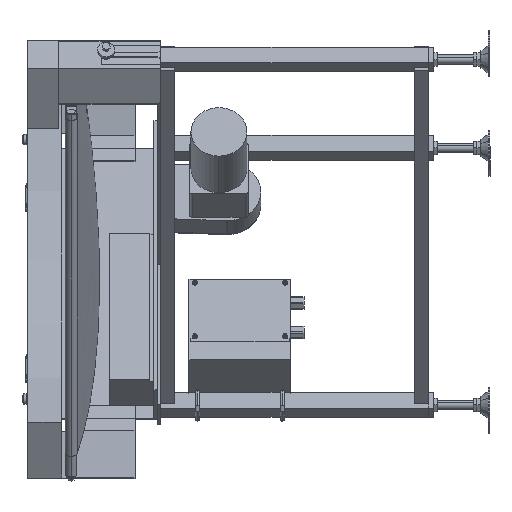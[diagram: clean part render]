
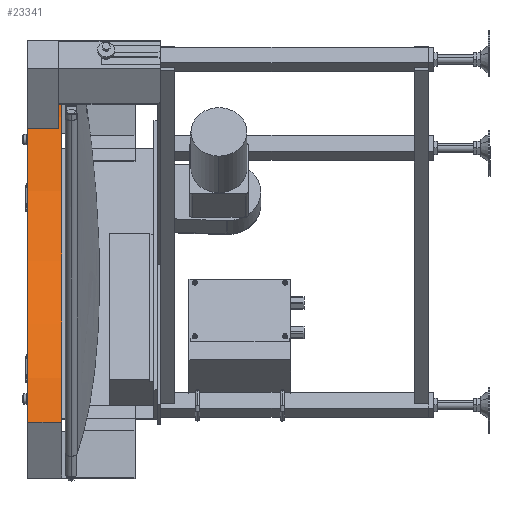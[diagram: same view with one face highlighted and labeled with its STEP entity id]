
A CAD part, left-side view. The second image highlights one B-rep face of the part: STEP entity #23341.
In plain terms, the highlighted cylindrical face has radius 780 mm (diameter 1560 mm), a partial arc.
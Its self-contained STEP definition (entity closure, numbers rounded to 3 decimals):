
#601 = VERTEX_POINT ( 'NONE', #20911 ) ;
#3291 = EDGE_CURVE ( 'NONE', #31294, #7840, #14160, .T. ) ;
#7840 = VERTEX_POINT ( 'NONE', #32800 ) ;
#7894 = AXIS2_PLACEMENT_3D ( 'NONE', #8319, #8604, #39679 ) ;
#8319 = CARTESIAN_POINT ( 'NONE',  ( 0., 8., 0. ) ) ;
#8563 = ORIENTED_EDGE ( 'NONE', *, *, #23838, .F. ) ;
#8604 = DIRECTION ( 'NONE',  ( 0., 1., 0. ) ) ;
#9408 = DIRECTION ( 'NONE',  ( 1., 0., 0. ) ) ;
#10437 = CIRCLE ( 'NONE', #7894, 780. ) ;
#11128 = DIRECTION ( 'NONE',  ( 0., -1., 0. ) ) ;
#11170 = AXIS2_PLACEMENT_3D ( 'NONE', #20501, #11128, #35962 ) ;
#12681 = CARTESIAN_POINT ( 'NONE',  ( 0., 0., 0. ) ) ;
#14160 = CIRCLE ( 'NONE', #11170, 780. ) ;
#14256 = CARTESIAN_POINT ( 'NONE',  ( 390., 0., -675.5 ) ) ;
#17093 = DIRECTION ( 'NONE',  ( 0., 1., 0. ) ) ;
#18195 = ORIENTED_EDGE ( 'NONE', *, *, #27385, .F. ) ;
#19399 = CARTESIAN_POINT ( 'NONE',  ( 390., 8., -675.5 ) ) ;
#20501 = CARTESIAN_POINT ( 'NONE',  ( 0., 68., 0. ) ) ;
#20911 = CARTESIAN_POINT ( 'NONE',  ( 780., 8., 0. ) ) ;
#20995 = LINE ( 'NONE', #21301, #21460 ) ;
#21301 = CARTESIAN_POINT ( 'NONE',  ( 780., 0., 0. ) ) ;
#21460 = VECTOR ( 'NONE', #30955, 1000. ) ;
#23341 = ADVANCED_FACE ( 'NONE', ( #29734 ), #27630, .F. ) ;
#23838 = EDGE_CURVE ( 'NONE', #39176, #31294, #37634, .T. ) ;
#27385 = EDGE_CURVE ( 'NONE', #601, #39176, #10437, .T. ) ;
#27630 = CYLINDRICAL_SURFACE ( 'NONE', #34849, 780. ) ;
#27826 = EDGE_LOOP ( 'NONE', ( #8563, #18195, #31835, #39040 ) ) ;
#29504 = EDGE_CURVE ( 'NONE', #601, #7840, #20995, .T. ) ;
#29734 = FACE_OUTER_BOUND ( 'NONE', #27826, .T. ) ;
#30955 = DIRECTION ( 'NONE',  ( 0., 1., 0. ) ) ;
#31294 = VERTEX_POINT ( 'NONE', #37426 ) ;
#31835 = ORIENTED_EDGE ( 'NONE', *, *, #29504, .T. ) ;
#32800 = CARTESIAN_POINT ( 'NONE',  ( 780., 68., 0. ) ) ;
#34849 = AXIS2_PLACEMENT_3D ( 'NONE', #12681, #37482, #9408 ) ;
#35714 = VECTOR ( 'NONE', #17093, 1000. ) ;
#35962 = DIRECTION ( 'NONE',  ( 1., 0., 0. ) ) ;
#37426 = CARTESIAN_POINT ( 'NONE',  ( 390., 68., -675.5 ) ) ;
#37482 = DIRECTION ( 'NONE',  ( 0., 1., 0. ) ) ;
#37634 = LINE ( 'NONE', #14256, #35714 ) ;
#39040 = ORIENTED_EDGE ( 'NONE', *, *, #3291, .F. ) ;
#39176 = VERTEX_POINT ( 'NONE', #19399 ) ;
#39679 = DIRECTION ( 'NONE',  ( -1., 0., 0. ) ) ;
